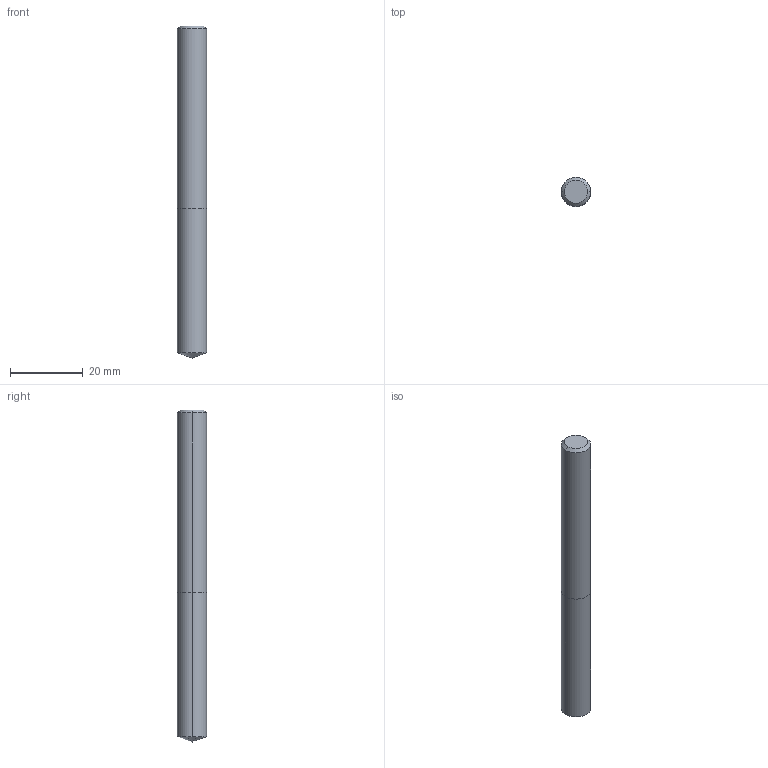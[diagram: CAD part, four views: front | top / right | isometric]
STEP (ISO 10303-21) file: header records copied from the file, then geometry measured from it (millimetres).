
FILE_DESCRIPTION (( 'STEP AP214' ), '1' );
FILE_NAME ('711.080.00_3D-model.step', '2022-02-22T18:10:46', ( '' ), ( '' ), 'SwSTEP 2.0', 'SolidWorks 2020', '' );
FILE_SCHEMA (( 'AUTOMOTIVE_DESIGN' ));
Length unit declared in the file: millimetre
Products named in the file (3): NOCUT-3D^Baugr17; CUT-3D^Baugr17; 711.080.00_3D-model
Assembly tree (2 placements, depth 2):
  711.080.00_3D-model
    CUT-3D^Baugr17
    NOCUT-3D^Baugr17
Bounding box: 8 x 8 x 91 mm (x, y, z)
Volume: 4517.9 mm3; surface area: 2442.2 mm2
Topology: 2 solids, 2 shells, 11 faces, 20 edges, 11 vertices
Faces by surface type: cone 4, cylinder 4, plane 3
Entity records: 380 total; most frequent: DIRECTION 66, CARTESIAN_POINT 48, ORIENTED_EDGE 36, AXIS2_PLACEMENT_3D 29, EDGE_CURVE 18, FACE_OUTER_BOUND 11, EDGE_LOOP 11, VERTEX_POINT 11
